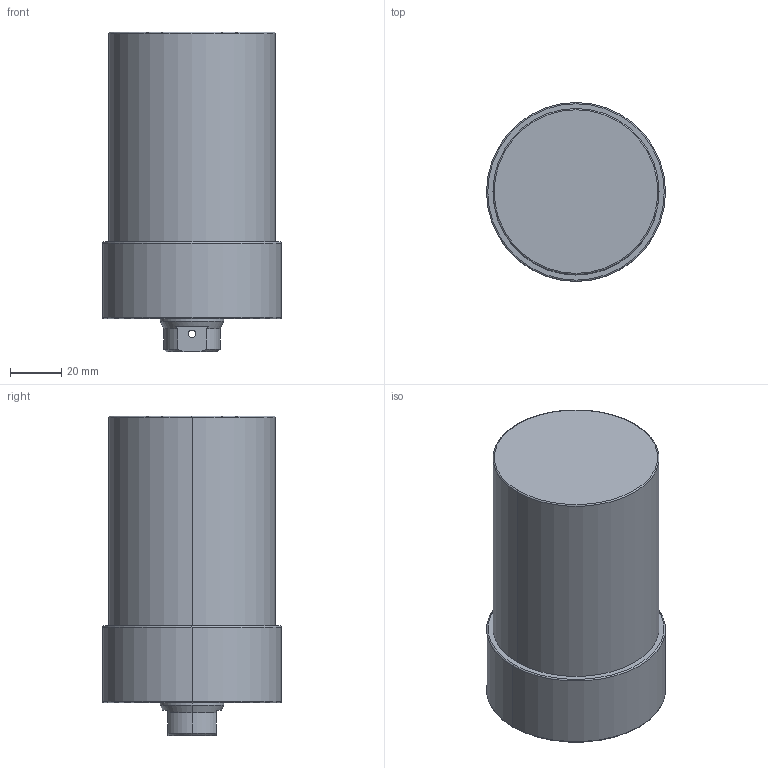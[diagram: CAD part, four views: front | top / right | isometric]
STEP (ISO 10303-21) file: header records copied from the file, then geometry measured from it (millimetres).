
FILE_DESCRIPTION (( 'STEP AP203' ), '1' );
FILE_NAME ('CLLU-065GB-065.STEP', '2020-01-06T08:48:15', ( '' ), ( '' ), 'SwSTEP 2.0', 'SolidWorks 2015', '' );
FILE_SCHEMA (( 'CONFIG_CONTROL_DESIGN' ));
Length unit declared in the file: millimetre
Products named in the file (1): CLLU-065GB-065
Bounding box: 70 x 70 x 125 mm (x, y, z)
Volume: 388029 mm3; surface area: 33965.1 mm2
Topology: 1 solids, 1 shells, 68 faces, 157 edges, 90 vertices
Faces by surface type: cylinder 27, cone 25, plane 10, torus 6
Entity records: 2051 total; most frequent: CARTESIAN_POINT 438, DIRECTION 352, ORIENTED_EDGE 294, AXIS2_PLACEMENT_3D 148, EDGE_CURVE 147, VERTEX_POINT 90, EDGE_LOOP 81, CIRCLE 79
